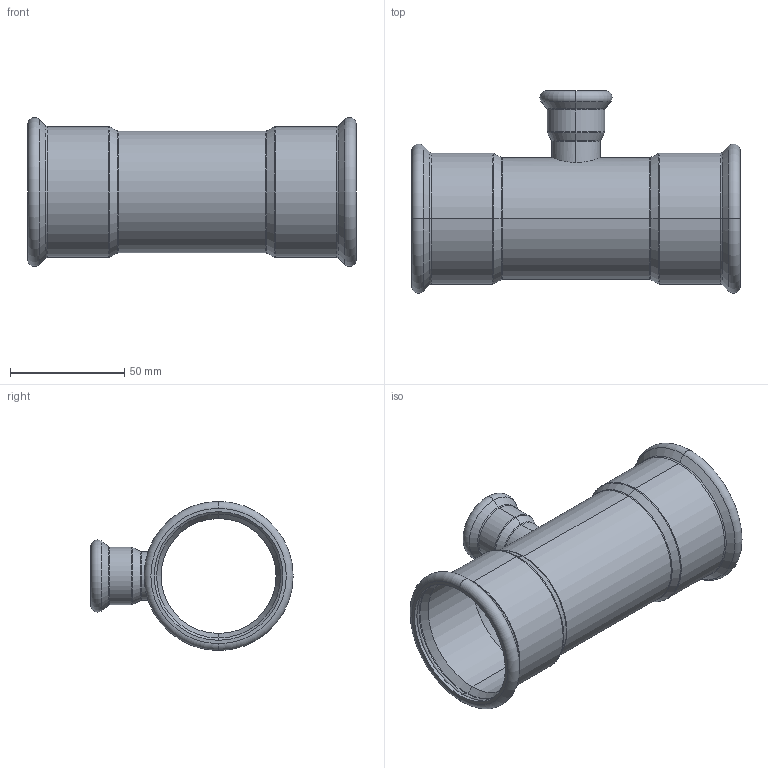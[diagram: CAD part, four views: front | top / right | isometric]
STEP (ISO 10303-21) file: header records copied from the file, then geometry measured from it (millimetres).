
FILE_DESCRIPTION (( 'STEP AP214' ), '1' );
FILE_NAME ('T54220R.STEP', '2025-08-18T00:39:53', ( '' ), ( '' ), 'SwSTEP 2.0', 'SolidWorks 2020', '' );
FILE_SCHEMA (( 'AUTOMOTIVE_DESIGN' ));
Length unit declared in the file: millimetre
Products named in the file (1): T54220R
Bounding box: 144 x 88.7 x 65.39 mm (x, y, z)
Volume: 44060.5 mm3; surface area: 60343.1 mm2
Topology: 4 solids, 4 shells, 98 faces, 198 edges, 106 vertices
Faces by surface type: torus 42, cylinder 26, cone 24, plane 6
Entity records: 3883 total; most frequent: CARTESIAN_POINT 593, DIRECTION 536, ORIENTED_EDGE 396, AXIS2_PLACEMENT_3D 243, EDGE_CURVE 198, CIRCLE 144, VERTEX_POINT 106, EDGE_LOOP 106
